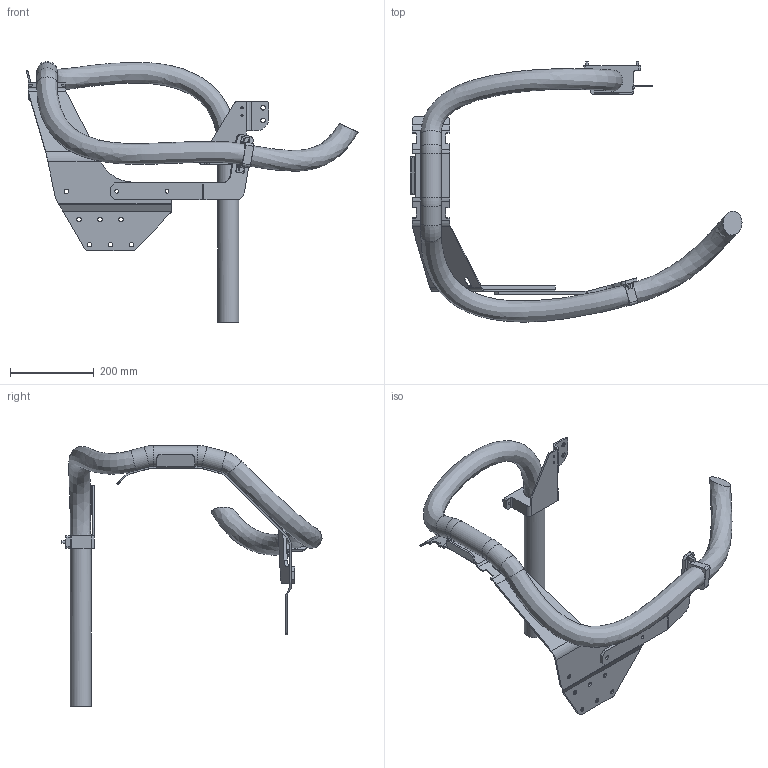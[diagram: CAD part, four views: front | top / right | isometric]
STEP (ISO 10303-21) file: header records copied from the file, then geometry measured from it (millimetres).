
FILE_DESCRIPTION (( 'STEP AP214' ), '1' );
FILE_NAME ('IRB6740-MH3_260kg-300_OC_00_LINK01_CABLE.step', '2026-05-07T13:28:49', ( '' ), ( '' ), 'SwSTEP 2.0', 'SolidWorks 2024', '' );
FILE_SCHEMA (( 'AUTOMOTIVE_DESIGN' ));
Length unit declared in the file: millimetre
Products named in the file (1): IRB6740-MH3_260kg-300_OC_00_LINK01_CABLE
Bounding box: 790.97 x 619.67 x 621.56 mm (x, y, z)
Volume: 5103372.9 mm3; surface area: 620292.7 mm2
Topology: 1 solids, 1 shells, 287 faces, 745 edges, 469 vertices
Faces by surface type: plane 160, cylinder 116, bspline 9, torus 2
Full cylindrical faces by diameter (mm): 5 x2, 6 x2, 7 x2, 8.8 x2, 10.5 x9, 11 x2, 50 x1
Entity records: 13890 total; most frequent: CARTESIAN_POINT 3710, DIRECTION 1460, ORIENTED_EDGE 1426, EDGE_CURVE 713, AXIS2_PLACEMENT_3D 502, VERTEX_POINT 460, VECTOR 456, LINE 456
